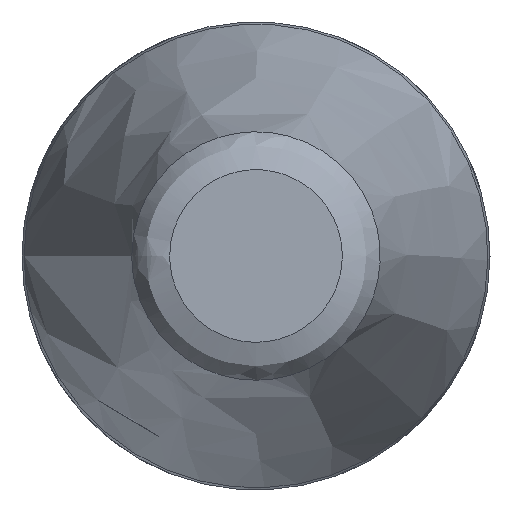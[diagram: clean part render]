
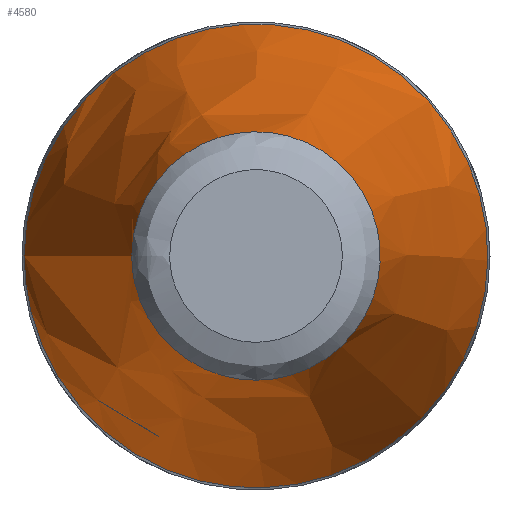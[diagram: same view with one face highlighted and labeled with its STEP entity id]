
A CAD part, left-side view. The second image highlights one B-rep face of the part: STEP entity #4580.
In plain terms, the highlighted free-form (B-spline) face has degree [2, 2] with [9, 3] control points.
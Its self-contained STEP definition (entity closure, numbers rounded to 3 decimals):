
#3540 = CARTESIAN_POINT ('', (0.383, 4.592, 3.));
#3550 = VERTEX_POINT ('', #3540);
#3620 = CARTESIAN_POINT ('', (0.383, 4.592, 3.));
#3630 = CARTESIAN_POINT ('', (0.383, 4.592, 4.592));
#3640 = CARTESIAN_POINT ('', (0.383, 3., 4.592));
#3650 = CARTESIAN_POINT ('', (0.383, 1.408, 4.592));
#3660 = CARTESIAN_POINT ('', (0.383, 1.408, 3.));
#3670 = CARTESIAN_POINT ('', (0.383, 1.408, 1.408));
#3680 = CARTESIAN_POINT ('', (0.383, 3., 1.408));
#3690 = CARTESIAN_POINT ('', (0.383, 4.592, 1.408));
#3700 = CARTESIAN_POINT ('', (0.383, 4.592, 3.));
#3710 = (
   BOUNDED_CURVE ()
   B_SPLINE_CURVE (2, (#3620, #3630, #3640, #3650, #3660, #3670, #3680, #3690, #3700), .UNSPECIFIED., .T., .U.)
   B_SPLINE_CURVE_WITH_KNOTS ((3, 2, 2, 2, 3), (0., 0.25, 0.5, 0.75, 1.), .UNSPECIFIED.)
   CURVE ()
   GEOMETRIC_REPRESENTATION_ITEM ()
   RATIONAL_B_SPLINE_CURVE ((1., 0.707, 1., 0.707, 1., 0.707, 1., 0.707, 1.))
   REPRESENTATION_ITEM ('')
);
#3720 = EDGE_CURVE ('', #3550, #3550, #3710, .T.);
#4060 = ORIENTED_EDGE ('', *, *, #3720, .T.);
#4070 = CARTESIAN_POINT ('', (6.089, 5.972, 3.));
#4080 = VERTEX_POINT ('', #4070);
#4090 = CARTESIAN_POINT ('', (0.383, 4.592, 3.));
#4100 = CARTESIAN_POINT ('', (3.236, 5.282, 3.));
#4110 = CARTESIAN_POINT ('', (6.089, 5.972, 3.));
#4120 = B_SPLINE_CURVE_WITH_KNOTS ('', 2, (#4090, #4100, #4110), .UNSPECIFIED., .F., .U., (3, 3), (1.738, 2.657), .UNSPECIFIED.);
#4130 = EDGE_CURVE ('', #3550, #4080, #4120, .T.);
#4140 = ORIENTED_EDGE ('', *, *, #4130, .T.);
#4150 = CARTESIAN_POINT ('', (6.089, 5.972, 3.));
#4160 = CARTESIAN_POINT ('', (6.089, 5.972, 5.972));
#4170 = CARTESIAN_POINT ('', (6.089, 3., 5.972));
#4180 = CARTESIAN_POINT ('', (6.089, 0.028, 5.972));
#4190 = CARTESIAN_POINT ('', (6.089, 0.028, 3.));
#4200 = CARTESIAN_POINT ('', (6.089, 0.028, 0.028));
#4210 = CARTESIAN_POINT ('', (6.089, 3., 0.028));
#4220 = CARTESIAN_POINT ('', (6.089, 5.972, 0.028));
#4230 = CARTESIAN_POINT ('', (6.089, 5.972, 3.));
#4240 = (
   BOUNDED_CURVE ()
   B_SPLINE_CURVE (2, (#4150, #4160, #4170, #4180, #4190, #4200, #4210, #4220, #4230), .UNSPECIFIED., .T., .U.)
   B_SPLINE_CURVE_WITH_KNOTS ((3, 2, 2, 2, 3), (0., 0.25, 0.5, 0.75, 1.), .UNSPECIFIED.)
   CURVE ()
   GEOMETRIC_REPRESENTATION_ITEM ()
   RATIONAL_B_SPLINE_CURVE ((1., 0.707, 1., 0.707, 1., 0.707, 1., 0.707, 1.))
   REPRESENTATION_ITEM ('')
);
#4250 = EDGE_CURVE ('', #4080, #4080, #4240, .T.);
#4260 = ORIENTED_EDGE ('', *, *, #4250, .F.);
#4270 = ORIENTED_EDGE ('', *, *, #4130, .F.);
#4280 = EDGE_LOOP ('', (#4060, #4140, #4260, #4270));
#4290 = FACE_OUTER_BOUND ('', #4280, .T.);
#4300 = CARTESIAN_POINT ('', (0.383, 4.592, 3.));
#4310 = CARTESIAN_POINT ('', (3.236, 5.282, 3.));
#4320 = CARTESIAN_POINT ('', (6.089, 5.972, 3.));
#4330 = CARTESIAN_POINT ('', (0.383, 4.592, 4.592));
#4340 = CARTESIAN_POINT ('', (3.236, 5.282, 5.282));
#4350 = CARTESIAN_POINT ('', (6.089, 5.972, 5.972));
#4360 = CARTESIAN_POINT ('', (0.383, 3., 4.592));
#4370 = CARTESIAN_POINT ('', (3.236, 3., 5.282));
#4380 = CARTESIAN_POINT ('', (6.089, 3., 5.972));
#4390 = CARTESIAN_POINT ('', (0.383, 1.408, 4.592));
#4400 = CARTESIAN_POINT ('', (3.236, 0.718, 5.282));
#4410 = CARTESIAN_POINT ('', (6.089, 0.028, 5.972));
#4420 = CARTESIAN_POINT ('', (0.383, 1.408, 3.));
#4430 = CARTESIAN_POINT ('', (3.236, 0.718, 3.));
#4440 = CARTESIAN_POINT ('', (6.089, 0.028, 3.));
#4450 = CARTESIAN_POINT ('', (0.383, 1.408, 1.408));
#4460 = CARTESIAN_POINT ('', (3.236, 0.718, 0.718));
#4470 = CARTESIAN_POINT ('', (6.089, 0.028, 0.028));
#4480 = CARTESIAN_POINT ('', (0.383, 3., 1.408));
#4490 = CARTESIAN_POINT ('', (3.236, 3., 0.718));
#4500 = CARTESIAN_POINT ('', (6.089, 3., 0.028));
#4510 = CARTESIAN_POINT ('', (0.383, 4.592, 1.408));
#4520 = CARTESIAN_POINT ('', (3.236, 5.282, 0.718));
#4530 = CARTESIAN_POINT ('', (6.089, 5.972, 0.028));
#4540 = CARTESIAN_POINT ('', (0.383, 4.592, 3.));
#4550 = CARTESIAN_POINT ('', (3.236, 5.282, 3.));
#4560 = CARTESIAN_POINT ('', (6.089, 5.972, 3.));
#4570 = (
   BOUNDED_SURFACE ()
   B_SPLINE_SURFACE (2, 2, ((#4300, #4310, #4320), (#4330, #4340, #4350), (#4360, #4370, #4380), (#4390, #4400, #4410), (#4420, #4430, #4440), (#4450, #4460, #4470), (#4480, #4490, #4500), (#4510, #4520, #4530), (#4540, #4550, #4560)), .UNSPECIFIED., .T., .F., .U.)
   B_SPLINE_SURFACE_WITH_KNOTS ((3, 2, 2, 2, 3), (3, 3), (0., 0.25, 0.5, 0.75, 1.), (1.738, 2.657), .UNSPECIFIED.)
   SURFACE ()
   GEOMETRIC_REPRESENTATION_ITEM ()
   RATIONAL_B_SPLINE_SURFACE (((1., 1., 1.), (0.707, 0.707, 0.707), (1., 1., 1.), (0.707, 0.707, 0.707), (1., 1., 1.), (0.707, 0.707, 0.707), (1., 1., 1.), (0.707, 0.707, 0.707), (1., 1., 1.)))
   REPRESENTATION_ITEM ('')
);
#4580 = ADVANCED_FACE ('', (#4290), #4570, .T.);
